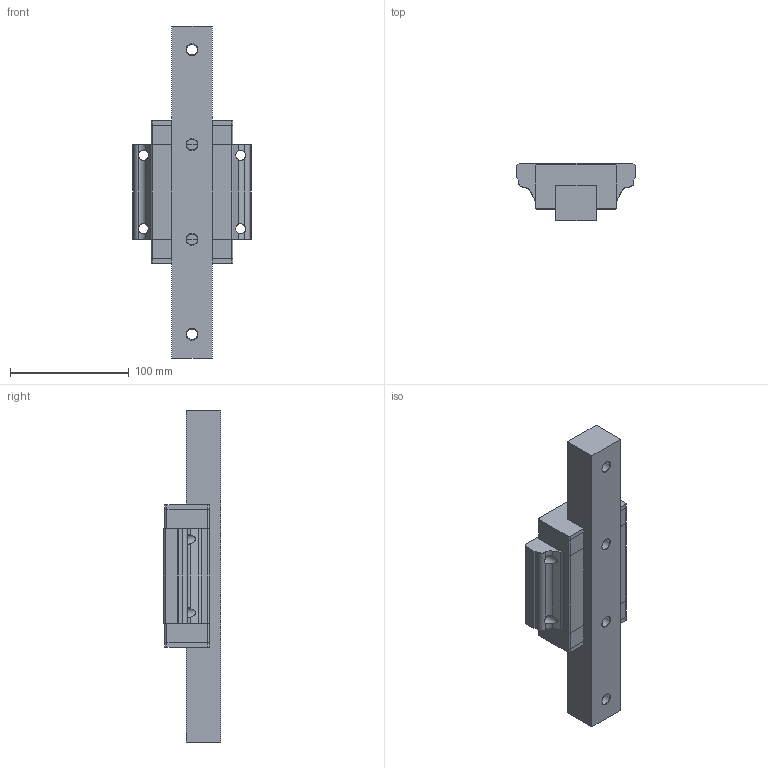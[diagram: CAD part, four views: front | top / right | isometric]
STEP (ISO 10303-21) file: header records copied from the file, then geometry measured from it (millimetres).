
FILE_DESCRIPTION((''),'2;1');
FILE_NAME('E:\PDF郪磁芞\DFH35A.STP','2018-01-27T14:14:35',(''),(''),'STEP Write','Mastercam V9 ... CNC Software, Inc.','');
FILE_SCHEMA(('CONFIG_CONTROL_DESIGN'));
Length unit declared in the file: millimetre
Bounding box: 100 x 48.1 x 280 mm (x, y, z)
Volume: 546733.6 mm3; surface area: 96877.5 mm2
Topology: 6 solids, 6 shells, 126 faces, 628 edges, 796 vertices
Faces by surface type: plane 78, cylinder 40, cone 8
Full cylindrical faces by diameter (mm): 8.5 x4, 9 x4, 14 x4
Entity records: 6818 total; most frequent: CARTESIAN_POINT 2432, DIRECTION 942, ORIENTED_EDGE 652, VECTOR 414, LINE 414, EDGE_CURVE 326, TRIMMED_CURVE 266, AXIS2_PLACEMENT_3D 264
